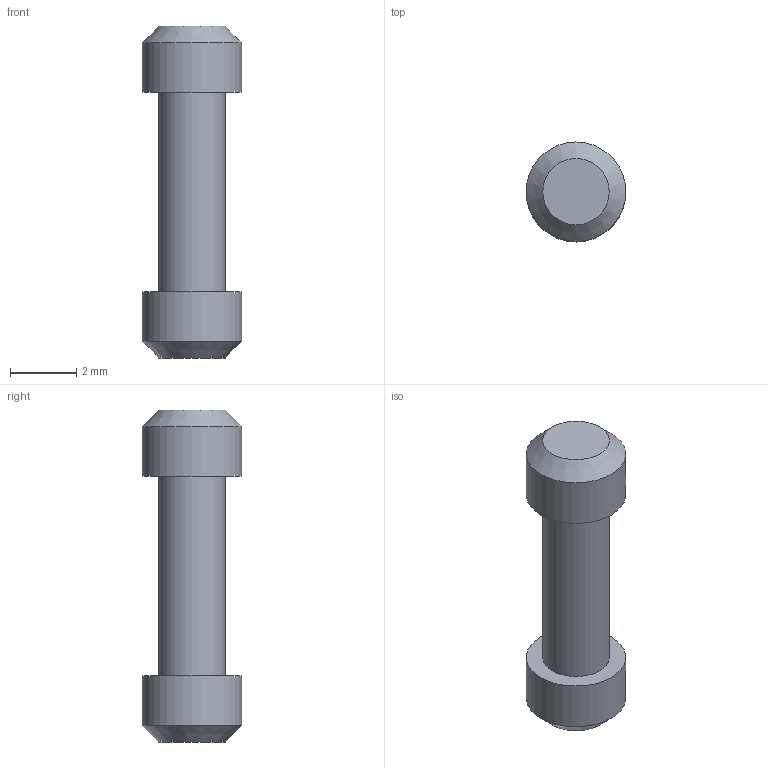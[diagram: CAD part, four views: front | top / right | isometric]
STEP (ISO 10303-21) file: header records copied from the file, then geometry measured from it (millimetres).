
FILE_DESCRIPTION(/* description */ (''),/* implementation_level */ '2;1');
FILE_NAME(/* name */ 'finger pin.stp',/* time_stamp */ '2023-08-14T21:48:44+03:00',/* author */ ('mosta'),/* organization */ (''),/* preprocessor_version */ 'ST-DEVELOPER v19.2',/* originating_system */ 'Autodesk Inventor 2024',/* authorisation */ '');
FILE_SCHEMA (('AUTOMOTIVE_DESIGN { 1 0 10303 214 3 1 1 }'));
Length unit declared in the file: millimetre
Products named in the file (1): finger pin
Bounding box: 3 x 3 x 10 mm (x, y, z)
Volume: 45 mm3; surface area: 91.2 mm2
Topology: 1 solids, 1 shells, 9 faces, 14 edges, 9 vertices
Faces by surface type: plane 4, cylinder 3, cone 2
Full cylindrical faces by diameter (mm): 2 x1, 3 x2
Entity records: 261 total; most frequent: DIRECTION 43, CARTESIAN_POINT 33, ORIENTED_EDGE 28, AXIS2_PLACEMENT_3D 19, EDGE_CURVE 14, EDGE_LOOP 11, FACE_OUTER_BOUND 9, CIRCLE 9
